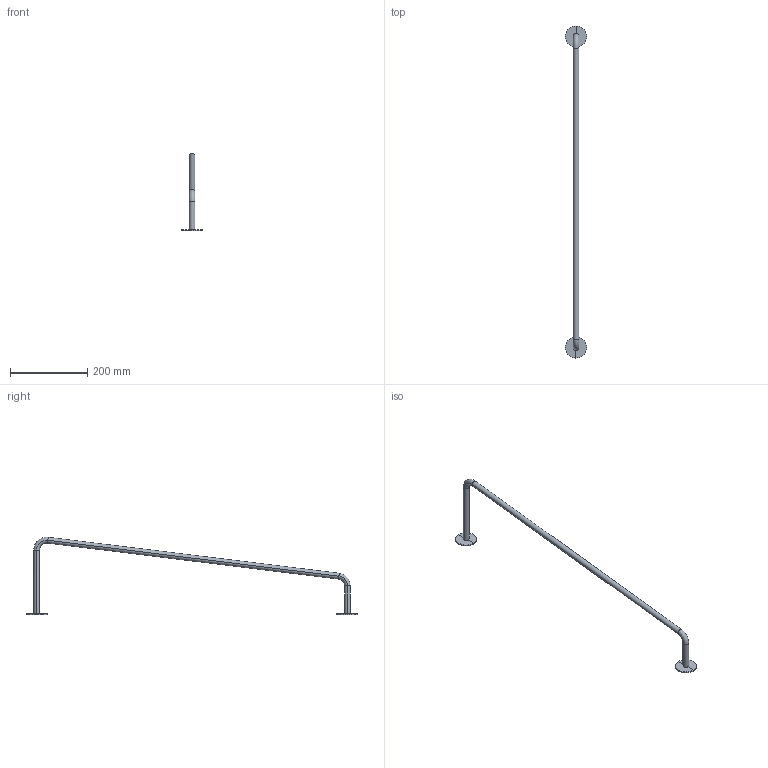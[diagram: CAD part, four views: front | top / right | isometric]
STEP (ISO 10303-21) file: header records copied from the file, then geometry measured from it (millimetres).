
FILE_DESCRIPTION(/* description */ (''),/* implementation_level */ '2;1');
FILE_NAME(/* name */ 'C:\Users\Franco Sartori E\Documents\FARO\DUPLICADO\Modelos\01_Digitalizados\0_WHIZZ\03_Publicación\20165.stp',/* time_stamp */ '2020-10-05T13:53:05+02:00',/* author */ ('Franco Sartori E'),/* organization */ (''),/* preprocessor_version */ 'ST-DEVELOPER v18.1',/* originating_system */ 'AutoCAD Mechanical',/* authorisation */ '');
FILE_SCHEMA (('AUTOMOTIVE_DESIGN { 1 0 10303 214 3 1 1 }'));
Length unit declared in the file: millimetre
Products named in the file (2): Product; 20165_ - WHIZZ-459491-Export
Assembly tree (1 placements, depth 2):
  Product
    20165_ - WHIZZ-459491-Export
Bounding box: 55 x 861 x 201.09 mm (x, y, z)
Volume: 204699.4 mm3; surface area: 60971.8 mm2
Topology: 1 solids, 1 shells, 21 faces, 43 edges, 24 vertices
Faces by surface type: cylinder 10, plane 7, torus 4
Entity records: 699 total; most frequent: CARTESIAN_POINT 223, DIRECTION 95, ORIENTED_EDGE 86, EDGE_CURVE 43, AXIS2_PLACEMENT_3D 40, VERTEX_POINT 24, FACE_OUTER_BOUND 21, EDGE_LOOP 21
